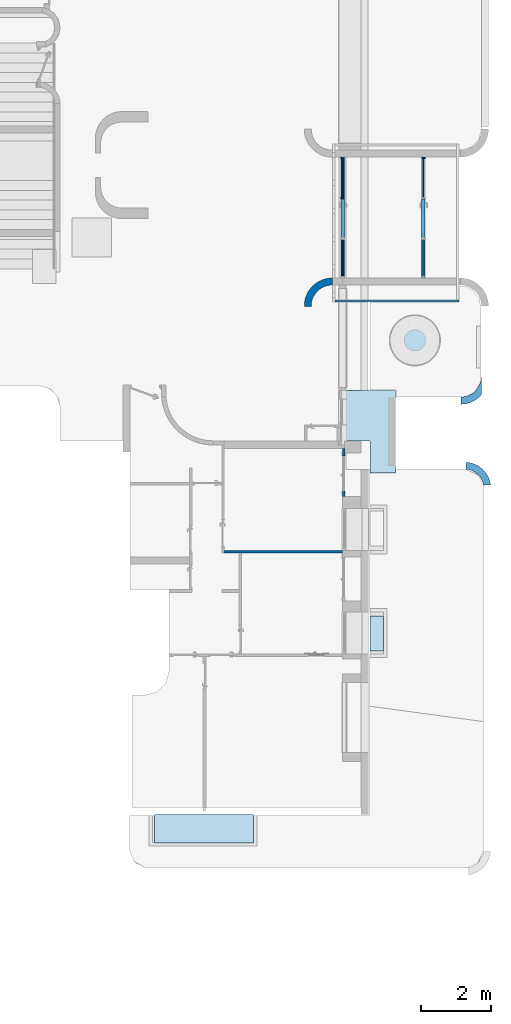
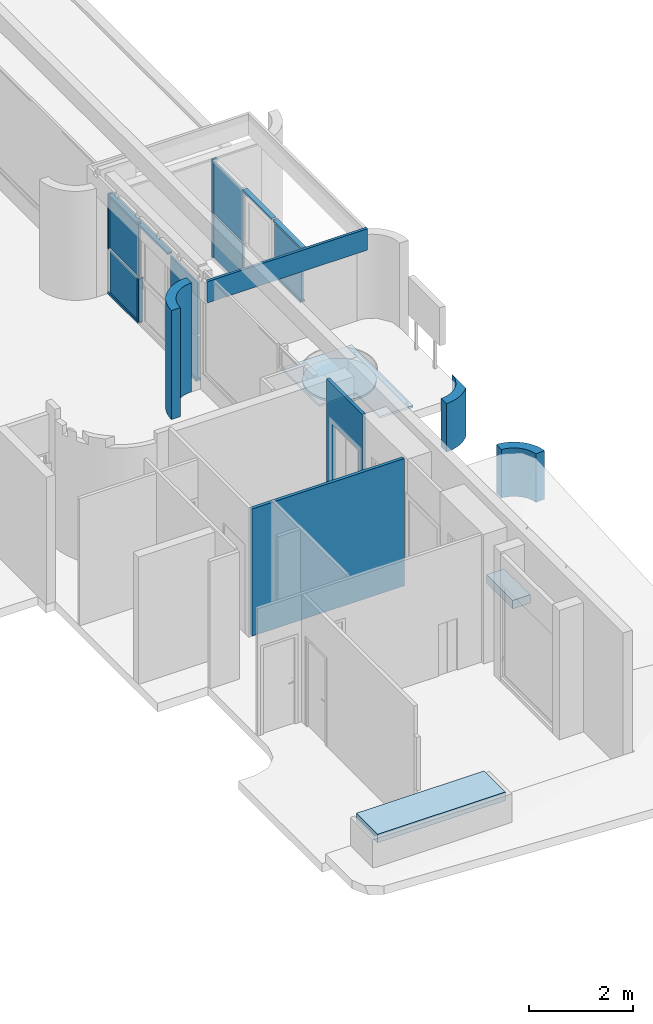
# One storey, part 1 of 10: 11 members, 7 plates, 6 walls, 4 slabs, 1 opening, 2 elements without a shape of their own.
"""IFC2X3 building model written with IfcOpenShell, lengths in metres."""

from ifc_helpers import new_model, entity, si_unit, converted_unit, derived_unit, direction, frame, frame_2d, origin, origin_2d_with_axis, place, context, subcontext, project, spatial, polyline, circle_curve, parameter, trimmed, segment, composite_curve, rectangle, circle, outline, extrude, clip, bounded_halfspace, source, transform, mapped, material, layer, layer_set, layer_usage, type_object, type_shapes, element, aggregate, save


model = new_model("IFC2X3")

# Units and contexts
model_context = context("Model", 3, precision=1e-05, world=origin(), true_north=direction((6.12303176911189e-17, 1.0)))
body_context = subcontext(model_context, "Body", "Model", "MODEL_VIEW")
ifc_project = project(units=[si_unit("LENGTHUNIT", "METRE"), si_unit("AREAUNIT", "SQUARE_METRE"), si_unit("VOLUMEUNIT", "CUBIC_METRE"), converted_unit("PLANEANGLEUNIT", "DEGREE", entity("IfcRatioMeasure", 0.0174532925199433), si_unit("PLANEANGLEUNIT", "RADIAN"), dimensions=[0, 0, 0, 0, 0, 0, 0]), si_unit("MASSUNIT", "GRAM", prefix="KILO"), derived_unit("MASSDENSITYUNIT", [(si_unit("MASSUNIT", "GRAM", prefix="KILO"), 1), (si_unit("LENGTHUNIT", "METRE"), -3)]), derived_unit("MOMENTOFINERTIAUNIT", [(si_unit("LENGTHUNIT", "METRE"), 4)]), si_unit("TIMEUNIT", "SECOND"), si_unit("FREQUENCYUNIT", "HERTZ"), si_unit("THERMODYNAMICTEMPERATUREUNIT", "DEGREE_CELSIUS"), derived_unit("THERMALTRANSMITTANCEUNIT", [(si_unit("MASSUNIT", "GRAM", prefix="KILO"), 1), (si_unit("THERMODYNAMICTEMPERATUREUNIT", "KELVIN"), -1), (si_unit("TIMEUNIT", "SECOND"), -3)]), derived_unit("VOLUMETRICFLOWRATEUNIT", [(si_unit("LENGTHUNIT", "METRE"), 3), (si_unit("TIMEUNIT", "SECOND"), -1)]), si_unit("ELECTRICCURRENTUNIT", "AMPERE"), si_unit("ELECTRICVOLTAGEUNIT", "VOLT"), si_unit("POWERUNIT", "WATT"), si_unit("FORCEUNIT", "NEWTON", prefix="KILO"), si_unit("ILLUMINANCEUNIT", "LUX"), si_unit("LUMINOUSFLUXUNIT", "LUMEN"), si_unit("LUMINOUSINTENSITYUNIT", "CANDELA"), derived_unit("USERDEFINED", [(si_unit("MASSUNIT", "GRAM", prefix="KILO"), -1), (si_unit("LENGTHUNIT", "METRE"), -2), (si_unit("TIMEUNIT", "SECOND"), 3), (si_unit("LUMINOUSFLUXUNIT", "LUMEN"), 1)]), derived_unit("LINEARVELOCITYUNIT", [(si_unit("LENGTHUNIT", "METRE"), 1), (si_unit("TIMEUNIT", "SECOND"), -1)]), si_unit("PRESSUREUNIT", "PASCAL"), derived_unit("USERDEFINED", [(si_unit("LENGTHUNIT", "METRE"), -2), (si_unit("MASSUNIT", "GRAM", prefix="KILO"), 1), (si_unit("TIMEUNIT", "SECOND"), -2)]), derived_unit("LINEARFORCEUNIT", [(si_unit("MASSUNIT", "GRAM", prefix="KILO"), 1), (si_unit("LENGTHUNIT", "METRE"), 1), (si_unit("TIMEUNIT", "SECOND"), -2), (si_unit("LENGTHUNIT", "METRE"), -1)]), derived_unit("PLANARFORCEUNIT", [(si_unit("MASSUNIT", "GRAM", prefix="KILO"), 1), (si_unit("LENGTHUNIT", "METRE"), 1), (si_unit("TIMEUNIT", "SECOND"), -2), (si_unit("LENGTHUNIT", "METRE"), -2)])], contexts=[model_context])

# Site, building, storey
site_placement = place(None, origin())
site = spatial("IfcSite", under=ifc_project, at=site_placement, Name="Default", CompositionType="ELEMENT")
building_placement = place(site_placement, origin())
building = spatial("IfcBuilding", under=site, at=building_placement, CompositionType="ELEMENT")
storey_placement = place(building_placement, frame((0.0, 0.0, 0.893308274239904)))
storey = spatial("IfcBuildingStorey", under=building, at=storey_placement, Name="Niveau 00 - 02", CompositionType="ELEMENT", Elevation=0.893308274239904)

# Curtain wall, members
curtain_wall_type = type_object("IfcCurtainWallType", Name="Mur-rideau:SANS Calpinage", PredefinedType="NOTDEFINED")
curtain_wall_1_placement = place(storey_placement, frame((0.0, 0.0, -0.893308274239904)))
curtain_wall_1 = element("IfcCurtainWall", 1, at=curtain_wall_1_placement, inside=storey, type_object=curtain_wall_type, Name="Mur-rideau:SANS Calpinage", ObjectType="Mur-rideau:SANS Calpinage")
ifc_material_1 = material(Name="Aluminium 2")
member_type_1 = type_object("IfcMemberType", Name="Meneau rectangulaire:50 x 100mm", PredefinedType="MULLION", material=ifc_material_1)
shared_shape_1 = source(origin(), body_context, "Body", "SweptSolid", [
    extrude(rectangle(XDim=0.1, YDim=0.05, at=origin_2d_with_axis()), frame((-0.025, 0.0, -1.09085731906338), z_axis=(0.0, 0.0, 1.0), x_axis=(0.0, -1.0, 0.0)), (0.0, 0.0, 1.0), 1.09085731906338),
])
type_shapes(member_type_1, [shared_shape_1])
placement = place(building_placement, origin())
member_1_placement = place(placement, frame((2.32032838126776, -2.29962539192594, 3.2433082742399), z_axis=(0.0, 1.0, 0.0), x_axis=(0.0, 0.0, 1.0)))
member_1 = element("IfcMember", 2, at=member_1_placement, type_object=member_type_1, material=ifc_material_1, Name="Meneau rectangulaire:50 x 100mm", ObjectType="Meneau rectangulaire:50 x 100mm", context=body_context, shape_type="MappedRepresentation", body=[
    mapped(shared_shape_1, transform((0.0, 0.0, 0.0), scale=1.0)),
])
member_type_2 = type_object("IfcMemberType", Name="Meneau rectangulaire:50 x 100mm", PredefinedType="MULLION", material=ifc_material_1)
shared_shape_2 = source(origin(), body_context, "Body", "SweptSolid", [
    extrude(rectangle(XDim=0.1, YDim=0.05, at=origin_2d_with_axis()), frame((-0.025, 0.0, -1.06828544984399), z_axis=(0.0, 0.0, 1.0), x_axis=(0.0, -1.0, 0.0)), (0.0, 0.0, 1.0), 1.06828544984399),
])
type_shapes(member_type_2, [shared_shape_2])
member_2_placement = place(placement, frame((2.32032838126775, -5.6496253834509, 0.893308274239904), z_axis=(0.0, -1.0, 0.0), x_axis=(0.0, 0.0, -1.0)))
member_2 = element("IfcMember", 3, at=member_2_placement, type_object=member_type_2, material=ifc_material_1, Name="Meneau rectangulaire:50 x 100mm", ObjectType="Meneau rectangulaire:50 x 100mm", context=body_context, shape_type="MappedRepresentation", body=[
    mapped(shared_shape_2, transform((0.0, 0.0, 0.0), scale=1.0)),
])

curtain_wall_2_placement = place(storey_placement, frame((0.0, 0.0, -0.893308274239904)))
curtain_wall_2 = element("IfcCurtainWall", 4, at=curtain_wall_2_placement, inside=storey, type_object=curtain_wall_type, Name="Mur-rideau:SANS Calpinage", ObjectType="Mur-rideau:SANS Calpinage")
member_type_3 = type_object("IfcMemberType", Name="Meneau rectangulaire:50 x 100mm", PredefinedType="MULLION", material=ifc_material_1)
shared_shape_3 = source(origin(), body_context, "Body", "SweptSolid", [
    extrude(rectangle(XDim=0.1, YDim=0.05, at=origin_2d_with_axis()), frame((-0.025, 0.0, -1.01), z_axis=(0.0, 0.0, 1.0), x_axis=(0.0, -1.0, 0.0)), (0.0, 0.0, 1.0), 1.01),
])
type_shapes(member_type_3, [shared_shape_3])
member_3_placement = place(placement, frame((4.62423832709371, -2.24962539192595, 0.943308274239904), z_axis=(0.0, 0.0, -1.0), x_axis=(0.0, 1.0, 0.0)))
member_3 = element("IfcMember", 5, at=member_3_placement, type_object=member_type_3, material=ifc_material_1, Name="Meneau rectangulaire:50 x 100mm", ObjectType="Meneau rectangulaire:50 x 100mm", context=body_context, shape_type="MappedRepresentation", body=[
    mapped(shared_shape_3, transform((0.0, 0.0, 0.0), scale=1.0)),
])
member_type_4 = type_object("IfcMemberType", Name="Meneau rectangulaire:50 x 100mm", PredefinedType="MULLION", material=ifc_material_1)
shared_shape_4 = source(origin(), body_context, "Body", "SweptSolid", [
    extrude(rectangle(XDim=0.1, YDim=0.05, at=origin_2d_with_axis()), frame((-0.025, 0.0, -1.09328544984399), z_axis=(0.0, 0.0, 1.0), x_axis=(0.0, -1.0, 0.0)), (0.0, 0.0, 1.0), 1.09328544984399),
])
type_shapes(member_type_4, [shared_shape_4])
member_4_placement = place(storey_placement, frame((4.6242383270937, -4.60633993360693, 2.35), z_axis=(0.0, 1.0, 0.0), x_axis=(0.0, 0.0, 1.0)))
member_4 = element("IfcMember", 6, at=member_4_placement, type_object=member_type_4, material=ifc_material_1, Name="Meneau rectangulaire:50 x 100mm", ObjectType="Meneau rectangulaire:50 x 100mm", context=body_context, shape_type="MappedRepresentation", body=[
    mapped(shared_shape_4, transform((0.0, 0.0, 0.0), scale=1.0)),
])

# Member
member_type_5 = type_object("IfcMemberType", Name="Meneau rectangulaire:50 x 100mm", PredefinedType="MULLION", material=ifc_material_1)
shared_shape_5 = source(origin(), body_context, "Body", "SweptSolid", [
    extrude(rectangle(XDim=0.1, YDim=0.05, at=origin_2d_with_axis()), frame((0.0, 0.0, -1.01), z_axis=(0.0, 0.0, 1.0), x_axis=(0.0, -1.0, 0.0)), (0.0, 0.0, 1.0), 1.01),
])
type_shapes(member_type_5, [shared_shape_5])
member_5_placement = place(storey_placement, frame((2.32032838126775, -3.41548261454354, 0.05), z_axis=(0.0, 0.0, -1.0), x_axis=(0.0, 1.0, 0.0)))
member_5 = element("IfcMember", 7, at=member_5_placement, type_object=member_type_5, material=ifc_material_1, Name="Meneau rectangulaire:50 x 100mm", ObjectType="Meneau rectangulaire:50 x 100mm", context=body_context, shape_type="MappedRepresentation", body=[
    mapped(shared_shape_5, transform((0.0, 0.0, 0.0), scale=1.0)),
])

member_type_6 = type_object("IfcMemberType", Name="Meneau rectangulaire:50 x 100mm", PredefinedType="MULLION", material=ifc_material_1)
shared_shape_6 = source(origin(), body_context, "Body", "SweptSolid", [
    extrude(rectangle(XDim=0.1, YDim=0.05, at=origin_2d_with_axis()), frame((-0.025, 0.0, -1.11585731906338), z_axis=(0.0, 0.0, 1.0), x_axis=(0.0, -1.0, 0.0)), (0.0, 0.0, 1.0), 1.11585731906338),
])
type_shapes(member_type_6, [shared_shape_6])
member_6_placement = place(storey_placement, frame((4.6242383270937, -3.44048261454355, 2.35), z_axis=(0.0, 1.0, 0.0), x_axis=(0.0, 0.0, 1.0)))
member_6 = element("IfcMember", 8, at=member_6_placement, type_object=member_type_6, material=ifc_material_1, Name="Meneau rectangulaire:50 x 100mm", ObjectType="Meneau rectangulaire:50 x 100mm", context=body_context, shape_type="MappedRepresentation", body=[
    mapped(shared_shape_6, transform((0.0, 0.0, 0.0), scale=1.0)),
])

member_7_placement = place(storey_placement, frame((2.32032838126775, -3.44048261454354, 2.35), z_axis=(0.0, 1.0, 0.0), x_axis=(0.0, 0.0, 1.0)))
member_7 = element("IfcMember", 9, at=member_7_placement, type_object=member_type_6, material=ifc_material_1, Name="Meneau rectangulaire:50 x 100mm", ObjectType="Meneau rectangulaire:50 x 100mm", context=body_context, shape_type="MappedRepresentation", body=[
    mapped(shared_shape_6, transform((0.0, 0.0, 0.0), scale=1.0)),
])

member_type_7 = type_object("IfcMemberType", Name="Meneau rectangulaire:50 x 100mm", PredefinedType="MULLION", material=ifc_material_1)
shared_shape_7 = source(origin(), body_context, "Body", "SweptSolid", [
    extrude(rectangle(XDim=0.1, YDim=0.05, at=origin_2d_with_axis()), frame((-0.025, 0.0, -1.16585731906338), z_axis=(0.0, 0.0, 1.0), x_axis=(0.0, -1.0, 0.0)), (0.0, 0.0, 1.0), 1.16585731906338),
])
type_shapes(member_type_7, [shared_shape_7])
member_8_placement = place(storey_placement, frame((2.32032838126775, -3.41548261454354, 0.0), z_axis=(0.0, -1.0, 0.0), x_axis=(0.0, 0.0, -1.0)))
member_8 = element("IfcMember", 10, at=member_8_placement, type_object=member_type_7, material=ifc_material_1, Name="Meneau rectangulaire:50 x 100mm", ObjectType="Meneau rectangulaire:50 x 100mm", context=body_context, shape_type="MappedRepresentation", body=[
    mapped(shared_shape_7, transform((0.0, 0.0, 0.0), scale=1.0)),
])

member_type_8 = type_object("IfcMemberType", Name="Meneau rectangulaire:50 x 100mm", PredefinedType="MULLION", material=ifc_material_1)
shared_shape_8 = source(origin(), body_context, "Body", "SweptSolid", [
    extrude(rectangle(XDim=0.1, YDim=0.05, at=origin_2d_with_axis()), frame((-0.025, 0.0, -1.29), z_axis=(0.0, 0.0, 1.0), x_axis=(0.0, -1.0, 0.0)), (0.0, 0.0, 1.0), 1.29),
])
type_shapes(member_type_8, [shared_shape_8])
member_9_placement = place(storey_placement, frame((4.62423832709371, -2.24962539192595, 1.06), z_axis=(0.0, 0.0, -1.0), x_axis=(0.0, 1.0, 0.0)))
member_9 = element("IfcMember", 11, at=member_9_placement, type_object=member_type_8, material=ifc_material_1, Name="Meneau rectangulaire:50 x 100mm", ObjectType="Meneau rectangulaire:50 x 100mm", context=body_context, shape_type="MappedRepresentation", body=[
    mapped(shared_shape_8, transform((0.0, 0.0, 0.0), scale=1.0)),
])

member_10_placement = place(storey_placement, frame((2.32032838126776, -2.24962539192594, 1.06), z_axis=(0.0, 0.0, -1.0), x_axis=(0.0, 1.0, 0.0)))
member_10 = element("IfcMember", 12, at=member_10_placement, type_object=member_type_8, material=ifc_material_1, Name="Meneau rectangulaire:50 x 100mm", ObjectType="Meneau rectangulaire:50 x 100mm", context=body_context, shape_type="MappedRepresentation", body=[
    mapped(shared_shape_8, transform((0.0, 0.0, 0.0), scale=1.0)),
])

member_type_9 = type_object("IfcMemberType", Name="Meneau rectangulaire:50 x 100mm", PredefinedType="MULLION", material=ifc_material_1)
shared_shape_9 = source(origin(), body_context, "Body", "SweptSolid", [
    extrude(rectangle(XDim=0.1, YDim=0.05, at=origin_2d_with_axis()), frame((0.0, 0.0, -1.04328544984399), z_axis=(0.0, 0.0, 1.0), x_axis=(0.0, -1.0, 0.0)), (0.0, 0.0, 1.0), 1.04328544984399),
])
type_shapes(member_type_9, [shared_shape_9])
member_11_placement = place(storey_placement, frame((4.6242383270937, -4.60633993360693, 1.06), z_axis=(0.0, 1.0, 0.0), x_axis=(0.0, 0.0, 1.0)))
member_11 = element("IfcMember", 13, at=member_11_placement, type_object=member_type_9, material=ifc_material_1, Name="Meneau rectangulaire:50 x 100mm", ObjectType="Meneau rectangulaire:50 x 100mm", context=body_context, shape_type="MappedRepresentation", body=[
    mapped(shared_shape_9, transform((0.0, 0.0, 0.0), scale=1.0)),
])

# Slabs
ifc_material_2 = material(Name="étanchéité Isolation")
ifc_layer_1 = layer(ifc_material_2, 0.05)
ifc_layer_set_1 = layer_set([ifc_layer_1], Name="Sol:étanchéité terrasse 50mm")
ifc_layer_usage_1 = layer_usage(ifc_layer_set_1, "AXIS3", "POSITIVE", 0.0)
slab_type_1 = type_object("IfcSlabType", Name="Sol:étanchéité terrasse 50mm", PredefinedType="FLOOR", material=ifc_layer_set_1)
slab_1_placement = place(storey_placement, origin())
element("IfcSlab", 14, at=slab_1_placement, inside=storey, type_object=slab_type_1, material=ifc_layer_usage_1, Name="Sol:étanchéité terrasse 50mm", ObjectType="Sol:étanchéité terrasse 50mm", PredefinedType="FLOOR", context=body_context, shape_type="SweptSolid", body=[
    extrude(outline(polyline([(-0.174930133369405, -0.790519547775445), (1.26272311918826, -0.790519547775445), (1.26272311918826, 0.763899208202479), (-1.08779298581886, 0.763899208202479), (-1.08779298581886, 0.0266203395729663), (-0.174930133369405, 0.0266203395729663), (-0.174930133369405, -0.790519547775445)])), frame((3.07084792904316, -10.1717034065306, 2.3), z_axis=(0.0, 0.0, -1.0), x_axis=(0.0, 1.0, 0.0)), (0.0, 0.0, 1.0), 0.05),
])
ifc_material_3 = material(Name="ESPACE VERRT")
ifc_layer_2 = layer(ifc_material_3, 0.05)
ifc_layer_set_2 = layer_set([ifc_layer_2], Name="Sol:gazon 50")
ifc_layer_usage_2 = layer_usage(ifc_layer_set_2, "AXIS3", "POSITIVE", 0.0)
slab_type_2 = type_object("IfcSlabType", Name="Sol:gazon 50", PredefinedType="FLOOR", material=ifc_layer_set_2)
slab_2_placement = place(storey_placement, frame((-25.5039891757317, -8.18964185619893, 0.38)))
element("IfcSlab", 15, at=slab_2_placement, inside=storey, type_object=slab_type_2, material=ifc_layer_usage_2, Name="Sol:gazon 50:2", ObjectType="Sol:gazon 50", PredefinedType="FLOOR", context=body_context, shape_type="SweptSolid", body=[
    extrude(circle(Radius=0.709627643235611, at=frame_2d((-14.5896143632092, -9.20871924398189), x_axis=(1.0, 0.0))), frame((15.2989330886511, 9.9183468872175, 0.0499999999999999), z_axis=(0.0, 0.0, -1.0), x_axis=(-1.0, 0.0, 0.0)), (0.0, 0.0, 1.0), 0.05),
])

# Plate
ifc_material_4 = material(Name="Verre")
plate_type_1 = type_object("IfcPlateType", Name="Panneau système:Vitré", PredefinedType="CURTAIN_PANEL", material=ifc_material_4)
shared_shape_10 = source(origin(), body_context, "Body", "SweptSolid", [
    extrude(rectangle(XDim=0.04, YDim=1.04328544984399, at=origin_2d_with_axis()), frame((0.0, 0.0, 0.0), z_axis=(0.0, 0.0, 1.0), x_axis=(0.0, 1.0, 0.0)), (0.0, 0.0, 1.0), 0.985),
])
type_shapes(plate_type_1, [shared_shape_10])
plate_1_placement = place(curtain_wall_1_placement, frame((2.32032838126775, -5.12798265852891, 0.943308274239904), z_axis=(0.0, 0.0, 1.0), x_axis=(0.0, 1.0, 0.0)))
plate_1 = element("IfcPlate", 16, at=plate_1_placement, type_object=plate_type_1, material=ifc_material_4, Name="Panneau système:Vitré", ObjectType="Panneau système:Vitré", context=body_context, shape_type="MappedRepresentation", body=[
    mapped(shared_shape_10, transform((0.0, 0.0, 0.0), scale=1.0)),
])

plate_type_2 = type_object("IfcPlateType", Name="Panneau système:Vitré", PredefinedType="CURTAIN_PANEL", material=ifc_material_4)
shared_shape_11 = source(origin(), body_context, "Body", "SweptSolid", [
    extrude(rectangle(XDim=0.04, YDim=1.0908572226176, at=origin_2d_with_axis()), frame((0.0, 0.0, 0.0), z_axis=(0.0, 0.0, 1.0), x_axis=(0.0, 1.0, 0.0)), (0.0, 0.0, 1.0), 0.985),
])
type_shapes(plate_type_2, [shared_shape_11])
plate_2_placement = place(curtain_wall_2_placement, frame((4.62423832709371, -2.84505400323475, 0.943308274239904), z_axis=(0.0, 0.0, 1.0), x_axis=(0.0, 1.0, 0.0)))
plate_2 = element("IfcPlate", 17, at=plate_2_placement, type_object=plate_type_2, material=ifc_material_4, Name="Panneau système:Vitré", ObjectType="Panneau système:Vitré", context=body_context, shape_type="MappedRepresentation", body=[
    mapped(shared_shape_11, transform((0.0, 0.0, 0.0), scale=1.0)),
])

plate_3_placement = place(curtain_wall_1_placement, frame((2.32032838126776, -2.84505400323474, 0.943308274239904), z_axis=(0.0, 0.0, 1.0), x_axis=(0.0, 1.0, 0.0)))
plate_3 = element("IfcPlate", 18, at=plate_3_placement, type_object=plate_type_2, material=ifc_material_4, Name="Panneau système:Vitré", ObjectType="Panneau système:Vitré", context=body_context, shape_type="MappedRepresentation", body=[
    mapped(shared_shape_11, transform((0.0, 0.0, 0.0), scale=1.0)),
])

plate_type_3 = type_object("IfcPlateType", Name="Panneau système:Vitré", PredefinedType="CURTAIN_PANEL", material=ifc_material_4)
shared_shape_12 = source(origin(), body_context, "Body", "SweptSolid", [
    extrude(rectangle(XDim=0.04, YDim=1.04328544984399, at=origin_2d_with_axis()), frame((0.0, 0.0, 0.0), z_axis=(0.0, 0.0, 1.0), x_axis=(0.0, 1.0, 0.0)), (0.0, 0.0, 1.0), 1.215),
])
type_shapes(plate_type_3, [shared_shape_12])
plate_4_placement = place(curtain_wall_2_placement, frame((4.6242383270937, -5.12798265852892, 1.9783082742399), z_axis=(0.0, 0.0, 1.0), x_axis=(0.0, 1.0, 0.0)))
plate_4 = element("IfcPlate", 19, at=plate_4_placement, type_object=plate_type_3, material=ifc_material_4, Name="Panneau système:Vitré", ObjectType="Panneau système:Vitré", context=body_context, shape_type="MappedRepresentation", body=[
    mapped(shared_shape_12, transform((0.0, 0.0, 0.0), scale=1.0)),
])

plate_5_placement = place(curtain_wall_1_placement, frame((2.32032838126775, -5.12798265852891, 1.9783082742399), z_axis=(0.0, 0.0, 1.0), x_axis=(0.0, 1.0, 0.0)))
plate_5 = element("IfcPlate", 20, at=plate_5_placement, type_object=plate_type_3, material=ifc_material_4, Name="Panneau système:Vitré", ObjectType="Panneau système:Vitré", context=body_context, shape_type="MappedRepresentation", body=[
    mapped(shared_shape_12, transform((0.0, 0.0, 0.0), scale=1.0)),
])

plate_type_4 = type_object("IfcPlateType", Name="Panneau système:Vitré", PredefinedType="CURTAIN_PANEL", material=ifc_material_4)
shared_shape_13 = source(origin(), body_context, "Body", "SweptSolid", [
    extrude(rectangle(XDim=0.04, YDim=1.0908572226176, at=origin_2d_with_axis()), frame((0.0, 0.0, 0.0), z_axis=(0.0, 0.0, 1.0), x_axis=(0.0, 1.0, 0.0)), (0.0, 0.0, 1.0), 1.215),
])
type_shapes(plate_type_4, [shared_shape_13])
plate_6_placement = place(curtain_wall_2_placement, frame((4.62423832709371, -2.84505400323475, 1.9783082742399), z_axis=(0.0, 0.0, 1.0), x_axis=(0.0, 1.0, 0.0)))
plate_6 = element("IfcPlate", 21, at=plate_6_placement, type_object=plate_type_4, material=ifc_material_4, Name="Panneau système:Vitré", ObjectType="Panneau système:Vitré", context=body_context, shape_type="MappedRepresentation", body=[
    mapped(shared_shape_13, transform((0.0, 0.0, 0.0), scale=1.0)),
])

aggregate(curtain_wall_2, [plate_2, plate_4, plate_6, member_3, member_4, member_6, member_9, member_11])

plate_7_placement = place(curtain_wall_1_placement, frame((2.32032838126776, -2.84505400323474, 1.9783082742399), z_axis=(0.0, 0.0, 1.0), x_axis=(0.0, 1.0, 0.0)))
plate_7 = element("IfcPlate", 22, at=plate_7_placement, type_object=plate_type_4, material=ifc_material_4, Name="Panneau système:Vitré", ObjectType="Panneau système:Vitré", context=body_context, shape_type="MappedRepresentation", body=[
    mapped(shared_shape_13, transform((0.0, 0.0, 0.0), scale=1.0)),
])

aggregate(curtain_wall_1, [plate_1, plate_3, plate_5, plate_7, member_1, member_2, member_7, member_8, member_5, member_10])

# Slabs
ifc_layer_3 = layer(ifc_material_3, 0.2)
ifc_layer_set_3 = layer_set([ifc_layer_3], Name="Sol:gazon 200")
ifc_layer_usage_3 = layer_usage(ifc_layer_set_3, "AXIS3", "POSITIVE", 0.0)
slab_type_3 = type_object("IfcSlabType", Name="Sol:gazon 200", PredefinedType="FLOOR")
slab_3_placement = place(storey_placement, frame((-3.04898917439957, -21.8212530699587, 0.879224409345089)))
element("IfcSlab", 23, at=slab_3_placement, inside=storey, type_object=slab_type_3, material=ifc_layer_usage_3, Name="Sol:gazon 200:2", ObjectType="Sol:gazon 200", PredefinedType="FLOOR", context=body_context, shape_type="SweptSolid", body=[
    extrude(rectangle(XDim=0.389999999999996, YDim=1.00000000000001, at=frame_2d((-3.07322872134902, 1.2365032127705), x_axis=(1.0, 0.0))), frame((3.26822872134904, 4.7365032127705, 0.2), z_axis=(0.0, 0.0, -1.0), x_axis=(-1.0, 0.0, 0.0)), (0.0, 0.0, 1.0), 0.2),
])
slab_type_4 = type_object("IfcSlabType", Name="Sol:gazon 200", PredefinedType="FLOOR", material=ifc_layer_set_3)
slab_4_placement = place(storey_placement, frame((-3.04898917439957, -21.8212530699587, 0.879224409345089)))
element("IfcSlab", 24, at=slab_4_placement, inside=storey, type_object=slab_type_4, material=ifc_layer_usage_3, Name="Sol:gazon 200:3", ObjectType="Sol:gazon 200", PredefinedType="FLOOR", context=body_context, shape_type="SweptSolid", body=[
    extrude(rectangle(XDim=2.825, YDim=0.814999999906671, at=frame_2d((1.85572872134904, -4.32900321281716), x_axis=(1.0, 0.0))), frame((3.26822872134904, 4.7365032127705, 0.2), z_axis=(0.0, 0.0, -1.0), x_axis=(-1.0, 0.0, 0.0)), (0.0, 0.0, 1.0), 0.2),
])

# Walls
ifc_material_5 = material(Name="Finition vertical béton")
ifc_layer_4 = layer(ifc_material_5, 0.03)
ifc_material_6 = material(Name="Maçonnerie - Voile BA")
ifc_layer_5 = layer(ifc_material_6, 0.17)
ifc_layer_set_4 = layer_set([ifc_layer_4, ifc_layer_5], Name="Mur de base:Mur EXE 200- Hach")
ifc_layer_usage_4 = layer_usage(ifc_layer_set_4, "AXIS2", "POSITIVE", -0.1)
wall_type_1 = type_object("IfcWallType", Name="Mur de base:Mur EXE 200- Hach", PredefinedType="STANDARD", material=ifc_layer_set_4)
wall_1_placement = place(storey_placement, frame((5.69670041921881, -9.20447226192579, -0.634775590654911)))
element("IfcWallStandardCase", 25, at=wall_1_placement, inside=storey, type_object=wall_type_1, material=ifc_layer_usage_4, Name="Mur de base:Mur EXE 200- Hach", ObjectType="Mur de base:Mur EXE 200- Hach", context=body_context, shape_type="SweptSolid", body=[
    extrude(outline(composite_curve([segment(polyline([(-0.000125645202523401, 0.100015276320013), (0.00174786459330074, -0.0999847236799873)]), True, "CONTINUOUS"), segment(trimmed(circle_curve(frame_2d((-0.0122350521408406, 0.699893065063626), x_axis=(1.0, 0.0)), 0.799999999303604), [parameter(271.001503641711)], [parameter(318.590377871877)], True, "PARAMETER"), True, "CONTINUOUS"), segment(polyline([(0.587764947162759, 0.170742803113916), (0.587764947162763, 0.699893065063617)]), True, "CONTINUOUS"), segment(trimmed(circle_curve(frame_2d((-0.0122350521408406, 0.699893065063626), x_axis=(1.0, 0.0)), 0.599999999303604), [parameter(271.156441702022)], [parameter(359.999999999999)], True, "PARAMETER"), False, "CONTINUOUS")], self_intersect=False)), origin(), (0.0, 0.0, 1.0), 1.13571909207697),
])
ifc_layer_usage_5 = layer_usage(ifc_layer_set_4, "AXIS2", "POSITIVE", -0.1)
wall_2_placement = place(storey_placement, frame((5.84309790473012, -11.0593555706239, -0.634775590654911)))
element("IfcWallStandardCase", 26, at=wall_2_placement, inside=storey, type_object=wall_type_1, material=ifc_layer_usage_5, Name="Mur de base:Mur EXE 200- Hach", ObjectType="Mur de base:Mur EXE 200- Hach", context=body_context, shape_type="SweptSolid", body=[
    extrude(outline(composite_curve([segment(trimmed(circle_curve(frame_2d((-0.0340388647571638, -0.640716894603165), x_axis=(1.0, 0.0)), 0.741620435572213), [parameter(7.55689296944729)], [parameter(86.9589508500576)], True, "PARAMETER"), True, "CONTINUOUS"), segment(polyline([(0.00530514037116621, 0.0998591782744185), (-0.000420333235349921, -0.100140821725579)]), True, "CONTINUOUS"), segment(trimmed(circle_curve(frame_2d((-0.0340388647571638, -0.640716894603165), x_axis=(1.0, 0.0)), 0.541620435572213), [parameter(8.84510726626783)], [parameter(86.441347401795)], True, "PARAMETER"), False, "CONTINUOUS"), segment(polyline([(0.501140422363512, -0.557435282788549), (0.701140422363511, -0.543185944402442)]), True, "CONTINUOUS")], self_intersect=False)), origin(), (0.0, 0.0, 1.0), 1.13571909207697),
])
ifc_material_7 = material(Name="FP - Peinture bleu")
ifc_layer_6 = layer(ifc_material_7, 0.2)
ifc_layer_set_5 = layer_set([ifc_layer_6], Name="Mur de base:Ext. Voile BA 200 bleu")
ifc_layer_usage_6 = layer_usage(ifc_layer_set_5, "AXIS2", "NEGATIVE", 0.1)
wall_type_2 = type_object("IfcWallType", Name="Mur de base:Ext. Voile BA 200 bleu", PredefinedType="STANDARD", material=ifc_layer_set_5)
wall_3_placement = place(storey_placement, frame((1.32752413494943, -6.50846865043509, 0.0), z_axis=(0.0, 0.0, 1.0), x_axis=(0.0, -1.0, 0.0)))
element("IfcWallStandardCase", 27, at=wall_3_placement, inside=storey, type_object=wall_type_2, material=ifc_layer_usage_6, Name="Mur de base:Ext. Voile BA 200 bleu", ObjectType="Mur de base:Ext. Voile BA 200 bleu", context=body_context, shape_type="SweptSolid", body=[
    extrude(outline(composite_curve([segment(trimmed(circle_curve(frame_2d((-0.00884325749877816, 0.699944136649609), x_axis=(1.0, 0.0)), 0.79999999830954), [parameter(180.0)], [parameter(270.723849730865)], True, "PARAMETER"), True, "CONTINUOUS"), segment(polyline([(0.00126332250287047, -0.099992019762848), (-0.00126332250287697, 0.0999920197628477)]), True, "CONTINUOUS"), segment(trimmed(circle_curve(frame_2d((-0.00884325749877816, 0.699944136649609), x_axis=(1.0, 0.0)), 0.599999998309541), [parameter(180.0)], [parameter(270.723849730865)], True, "PARAMETER"), False, "CONTINUOUS"), segment(polyline([(-0.608843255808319, 0.699944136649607), (-0.808843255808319, 0.699944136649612)]), True, "CONTINUOUS")], self_intersect=False)), origin(), (0.0, 0.0, 1.0), 2.55),
])
ifc_material_8 = material(Name="Mur par défaut")
ifc_layer_7 = layer(ifc_material_8, 0.07)
ifc_layer_set_6 = layer_set([ifc_layer_7], Name="Mur de base:@_Générique - Int. 70 mm")
ifc_layer_usage_7 = layer_usage(ifc_layer_set_6, "AXIS2", "NEGATIVE", 0.035)
wall_type_3 = type_object("IfcWallType", Name="Mur de base:@_Générique - Int. 70 mm", PredefinedType="STANDARD", material=ifc_layer_set_6)
wall_4_placement = place(storey_placement, frame((2.31746826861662, -13.5179158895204, 0.0), z_axis=(0.0, 0.0, 1.0), x_axis=(-1.0, 0.0, 0.0)))
element("IfcWallStandardCase", 28, at=wall_4_placement, inside=storey, type_object=wall_type_3, material=ifc_layer_usage_7, Name="Mur de base:@_Générique - Int. 70 mm", ObjectType="Mur de base:@_Générique - Int. 70 mm", context=body_context, shape_type="Clipping", body=[
    clip(extrude(rectangle(XDim=3.37506828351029, YDim=0.0700000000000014, at=frame_2d((1.68753414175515, 6.1409211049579e-16), x_axis=(-1.0, 0.0))), origin(), (0.0, 0.0, 1.0), 2.97856448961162), bounded_halfspace(frame((0.0, -0.0349999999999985, 2.97856448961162), z_axis=(0.0, 0.0, -1.0), x_axis=(0.0, -1.0, 0.0)), True, frame((0.0, -0.0349999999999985, 2.97856448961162)), polyline([(0.0, 0.0), (3.37506828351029, 0.0), (3.37506828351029, 0.0699999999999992), (0.0, 0.0699999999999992), (0.0, 0.0)]))),
])

# Wall, opening
ifc_layer_usage_8 = layer_usage(ifc_layer_set_6, "AXIS2", "NEGATIVE", 0.035)
wall_5_placement = place(storey_placement, frame((2.3524682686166, -11.9366335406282, 0.0), z_axis=(0.0, 0.0, 1.0), x_axis=(0.0, 1.0, 0.0)))
wall_5 = element("IfcWallStandardCase", 29, at=wall_5_placement, inside=storey, type_object=wall_type_3, material=ifc_layer_usage_8, Name="Mur de base:@_Générique - Int. 70 mm", ObjectType="Mur de base:@_Générique - Int. 70 mm", context=body_context, shape_type="SweptSolid", body=[
    extrude(rectangle(XDim=1.37000000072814, YDim=0.0699999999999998, at=frame_2d((0.685000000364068, 0.0), x_axis=(-1.0, 0.0))), origin(), (0.0, 0.0, 1.0), 3.02856448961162),
])
opening_placement = place(wall_5_placement, frame((0.156615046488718, -0.034999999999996, 0.0)))
element("IfcOpeningElement", 30, at=opening_placement, cuts=wall_5, Name="Placard pliante:Placard pliante 100:1", ObjectType="Opening", context=body_context, shape_type="SweptSolid", body=[
    extrude(rectangle(XDim=2.09999999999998, YDim=1.0, at=frame_2d((1.04999999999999, 0.5), x_axis=(1.0, 0.0))), frame((0.0, 0.0, 0.0), z_axis=(0.0, 1.0, 0.0), x_axis=(0.0, 0.0, 1.0)), (0.0, 0.0, 1.0), 0.07),
])

# Wall
ifc_layer_8 = layer(ifc_material_7, 0.06)
ifc_layer_set_7 = layer_set([ifc_layer_8], Name="Mur de base:@_Générique - Int. 60 mm")
ifc_layer_usage_9 = layer_usage(ifc_layer_set_7, "AXIS2", "POSITIVE", -0.03)
wall_type_4 = type_object("IfcWallType", Name="Mur de base:@_Générique - Int. 60 mm", PredefinedType="STANDARD", material=ifc_layer_set_7)
wall_6_placement = place(storey_placement, frame((2.09847327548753, -6.35994139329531, 2.35)))
element("IfcWallStandardCase", 31, at=wall_6_placement, inside=storey, type_object=wall_type_4, material=ifc_layer_usage_9, Name="Mur de base:@_Générique - Int. 60 mm", ObjectType="Mur de base:@_Générique - Int. 60 mm", context=body_context, shape_type="SweptSolid", body=[
    extrude(rectangle(XDim=3.54076505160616, YDim=0.0599999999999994, at=frame_2d((1.77038252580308, -2.46330733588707e-16), x_axis=(-1.0, 0.0))), origin(), (0.0, 0.0, 1.0), 0.5),
])

save(model, "model.ifc")
